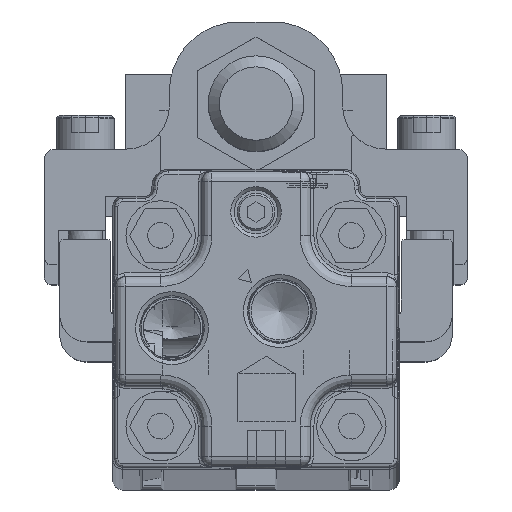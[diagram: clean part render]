
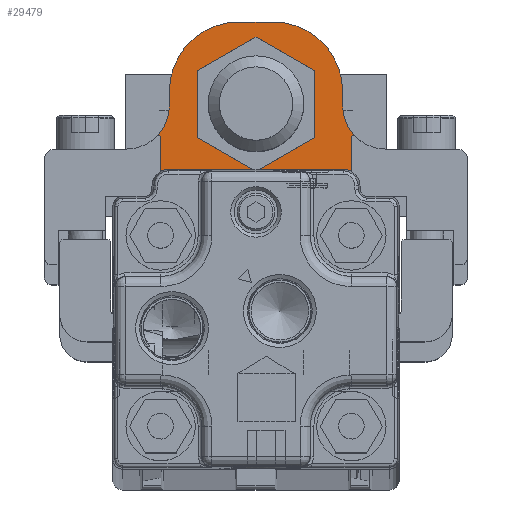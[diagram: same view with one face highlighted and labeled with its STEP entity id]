
A CAD part, top view. The second image highlights one B-rep face of the part: STEP entity #29479.
In plain terms, the highlighted planar face has unit normal (0, 0, 1).
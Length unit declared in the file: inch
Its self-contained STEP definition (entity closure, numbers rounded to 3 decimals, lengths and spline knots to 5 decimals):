
#5 = CARTESIAN_POINT ( 'NONE',  ( -0.1, 0.4748, -0.27559 ) ) ;
#718 = VERTEX_POINT ( 'NONE', #8689 ) ;
#861 = ORIENTED_EDGE ( 'NONE', *, *, #8585, .T. ) ;
#1132 = AXIS2_PLACEMENT_3D ( 'NONE', #18574, #13568, #13054 ) ;
#1176 = ORIENTED_EDGE ( 'NONE', *, *, #20737, .T. ) ;
#1322 = VERTEX_POINT ( 'NONE', #8042 ) ;
#1329 = DIRECTION ( 'NONE',  ( 0., 0., -1. ) ) ;
#1341 = CARTESIAN_POINT ( 'NONE',  ( -0.1, 0.0748, -0.27559 ) ) ;
#1572 = EDGE_CURVE ( 'NONE', #6424, #27566, #33865, .T. ) ;
#1623 = CARTESIAN_POINT ( 'NONE',  ( -0.5, -0.00906, -0.27559 ) ) ;
#1770 = VECTOR ( 'NONE', #25709, 39.37008 ) ;
#2056 = LINE ( 'NONE', #9706, #29802 ) ;
#2113 = CARTESIAN_POINT ( 'NONE',  ( -0.55118, -0.18779, -0.27559 ) ) ;
#2158 = VECTOR ( 'NONE', #21255, 39.37008 ) ;
#2505 = CIRCLE ( 'NONE', #26343, 0.01 ) ;
#2578 = FACE_OUTER_BOUND ( 'NONE', #4640, .T. ) ;
#2588 = CARTESIAN_POINT ( 'NONE',  ( 0.55118, -0.18779, -0.27559 ) ) ;
#3095 = ORIENTED_EDGE ( 'NONE', *, *, #19030, .T. ) ;
#3735 = ORIENTED_EDGE ( 'NONE', *, *, #18726, .T. ) ;
#3741 = AXIS2_PLACEMENT_3D ( 'NONE', #1341, #11921, #29355 ) ;
#3914 = CARTESIAN_POINT ( 'NONE',  ( -0.75, -0.00906, -0.27559 ) ) ;
#4118 = ORIENTED_EDGE ( 'NONE', *, *, #13944, .T. ) ;
#4193 = EDGE_CURVE ( 'NONE', #15937, #29982, #27621, .T. ) ;
#4421 = AXIS2_PLACEMENT_3D ( 'NONE', #20641, #31058, #33836 ) ;
#4640 = EDGE_LOOP ( 'NONE', ( #31101, #4118, #18362, #13677, #17644, #861, #12075, #16705, #15394, #27456, #1176, #32157, #17293, #3095, #5049, #3735 ) ) ;
#5049 = ORIENTED_EDGE ( 'NONE', *, *, #24814, .T. ) ;
#5413 = VECTOR ( 'NONE', #11190, 39.37008 ) ;
#5993 = CARTESIAN_POINT ( 'NONE',  ( -0.29035, -0.5315, -0.27559 ) ) ;
#6071 = CIRCLE ( 'NONE', #24904, 0.25 ) ;
#6320 = CARTESIAN_POINT ( 'NONE',  ( -0.5, 0.0748, -0.27559 ) ) ;
#6424 = VERTEX_POINT ( 'NONE', #23441 ) ;
#6636 = EDGE_LOOP ( 'NONE', ( #19509 ) ) ;
#7128 = AXIS2_PLACEMENT_3D ( 'NONE', #3914, #1329, #27862 ) ;
#7572 = VERTEX_POINT ( 'NONE', #23651 ) ;
#7668 = DIRECTION ( 'NONE',  ( -1., 0., 0. ) ) ;
#8042 = CARTESIAN_POINT ( 'NONE',  ( 0.56844, -0.18092, -0.27559 ) ) ;
#8160 = CARTESIAN_POINT ( 'NONE',  ( -0.5, 0.0748, -0.27559 ) ) ;
#8585 = EDGE_CURVE ( 'NONE', #14483, #33937, #31596, .T. ) ;
#8662 = DIRECTION ( 'NONE',  ( 0., -1., 0. ) ) ;
#8689 = CARTESIAN_POINT ( 'NONE',  ( -0.24606, 0., -0.27559 ) ) ;
#9424 = CIRCLE ( 'NONE', #1132, 0.01 ) ;
#9625 = EDGE_CURVE ( 'NONE', #718, #718, #25010, .T. ) ;
#9706 = CARTESIAN_POINT ( 'NONE',  ( -0.29035, -0.5315, -0.27559 ) ) ;
#10097 = CARTESIAN_POINT ( 'NONE',  ( -0.56118, -0.18779, -0.27559 ) ) ;
#10546 = VERTEX_POINT ( 'NONE', #2113 ) ;
#10731 = VERTEX_POINT ( 'NONE', #13683 ) ;
#10739 = CARTESIAN_POINT ( 'NONE',  ( -0.55118, -0.74835, -0.27559 ) ) ;
#10771 = EDGE_CURVE ( 'NONE', #10546, #7572, #13513, .T. ) ;
#11015 = CARTESIAN_POINT ( 'NONE',  ( 0.55118, -0.74835, -0.27559 ) ) ;
#11190 = DIRECTION ( 'NONE',  ( 0., 1., 0. ) ) ;
#11921 = DIRECTION ( 'NONE',  ( 0., 0., 1. ) ) ;
#12075 = ORIENTED_EDGE ( 'NONE', *, *, #31360, .T. ) ;
#12078 = CARTESIAN_POINT ( 'NONE',  ( -0.29035, -0.47244, -0.27559 ) ) ;
#12642 = CARTESIAN_POINT ( 'NONE',  ( -0.29035, -0.47244, -0.27559 ) ) ;
#12766 = AXIS2_PLACEMENT_3D ( 'NONE', #18479, #31844, #13287 ) ;
#12961 = DIRECTION ( 'NONE',  ( 0., 0., 1. ) ) ;
#13011 = PLANE ( 'NONE',  #4421 ) ;
#13054 = DIRECTION ( 'NONE',  ( -1., 0., 0. ) ) ;
#13287 = DIRECTION ( 'NONE',  ( -1., 0., 0. ) ) ;
#13336 = EDGE_CURVE ( 'NONE', #1322, #26265, #6071, .T. ) ;
#13513 = LINE ( 'NONE', #10739, #23879 ) ;
#13568 = DIRECTION ( 'NONE',  ( 0., 0., -1. ) ) ;
#13619 = CARTESIAN_POINT ( 'NONE',  ( 0.55118, -0.5315, -0.27559 ) ) ;
#13677 = ORIENTED_EDGE ( 'NONE', *, *, #13336, .T. ) ;
#13683 = CARTESIAN_POINT ( 'NONE',  ( -0.1, 0.4748, -0.27559 ) ) ;
#13944 = EDGE_CURVE ( 'NONE', #27566, #31505, #19150, .T. ) ;
#14483 = VERTEX_POINT ( 'NONE', #26956 ) ;
#14767 = DIRECTION ( 'NONE',  ( -1., 0., 0. ) ) ;
#15131 = CARTESIAN_POINT ( 'NONE',  ( 0.29035, -0.5315, -0.27559 ) ) ;
#15390 = VECTOR ( 'NONE', #30692, 39.37008 ) ;
#15394 = ORIENTED_EDGE ( 'NONE', *, *, #32047, .T. ) ;
#15429 = VERTEX_POINT ( 'NONE', #12078 ) ;
#15937 = VERTEX_POINT ( 'NONE', #1623 ) ;
#15948 = CARTESIAN_POINT ( 'NONE',  ( 0.29035, -0.47244, -0.27559 ) ) ;
#16061 = EDGE_CURVE ( 'NONE', #31505, #1322, #9424, .T. ) ;
#16526 = VERTEX_POINT ( 'NONE', #26880 ) ;
#16705 = ORIENTED_EDGE ( 'NONE', *, *, #24187, .T. ) ;
#16890 = DIRECTION ( 'NONE',  ( 0., -1., 0. ) ) ;
#17293 = ORIENTED_EDGE ( 'NONE', *, *, #24784, .T. ) ;
#17617 = VERTEX_POINT ( 'NONE', #15948 ) ;
#17644 = ORIENTED_EDGE ( 'NONE', *, *, #32585, .T. ) ;
#18059 = DIRECTION ( 'NONE',  ( 0., 0., -1. ) ) ;
#18362 = ORIENTED_EDGE ( 'NONE', *, *, #16061, .T. ) ;
#18479 = CARTESIAN_POINT ( 'NONE',  ( 0.1, 0.0748, -0.27559 ) ) ;
#18574 = CARTESIAN_POINT ( 'NONE',  ( 0.56118, -0.18779, -0.27559 ) ) ;
#18726 = EDGE_CURVE ( 'NONE', #17617, #6424, #21988, .T. ) ;
#19030 = EDGE_CURVE ( 'NONE', #16526, #15429, #29757, .T. ) ;
#19150 = LINE ( 'NONE', #11015, #5413 ) ;
#19379 = DIRECTION ( 'NONE',  ( 0., -1., 0. ) ) ;
#19502 = LINE ( 'NONE', #6320, #26108 ) ;
#19509 = ORIENTED_EDGE ( 'NONE', *, *, #9625, .F. ) ;
#20112 = LINE ( 'NONE', #12642, #15390 ) ;
#20158 = DIRECTION ( 'NONE',  ( 1., 0., 0. ) ) ;
#20641 = CARTESIAN_POINT ( 'NONE',  ( -0.55118, 0.72487, -0.27559 ) ) ;
#20654 = LINE ( 'NONE', #20979, #1770 ) ;
#20737 = EDGE_CURVE ( 'NONE', #29982, #10546, #2505, .T. ) ;
#20979 = CARTESIAN_POINT ( 'NONE',  ( 0.5, 0.0748, -0.27559 ) ) ;
#21255 = DIRECTION ( 'NONE',  ( 0., 1., 0. ) ) ;
#21686 = AXIS2_PLACEMENT_3D ( 'NONE', #25977, #12961, #23537 ) ;
#21988 = LINE ( 'NONE', #32569, #27873 ) ;
#22720 = DIRECTION ( 'NONE',  ( 1., 0., 0. ) ) ;
#23431 = FACE_BOUND ( 'NONE', #6636, .T. ) ;
#23441 = CARTESIAN_POINT ( 'NONE',  ( 0.29035, -0.5315, -0.27559 ) ) ;
#23456 = VERTEX_POINT ( 'NONE', #8160 ) ;
#23537 = DIRECTION ( 'NONE',  ( -1., 0., 0. ) ) ;
#23651 = CARTESIAN_POINT ( 'NONE',  ( -0.55118, -0.5315, -0.27559 ) ) ;
#23879 = VECTOR ( 'NONE', #8662, 39.37008 ) ;
#23953 = LINE ( 'NONE', #5, #32709 ) ;
#24187 = EDGE_CURVE ( 'NONE', #10731, #23456, #24251, .T. ) ;
#24251 = CIRCLE ( 'NONE', #3741, 0.4 ) ;
#24784 = EDGE_CURVE ( 'NONE', #7572, #16526, #2056, .T. ) ;
#24798 = CARTESIAN_POINT ( 'NONE',  ( -0.56844, -0.18092, -0.27559 ) ) ;
#24814 = EDGE_CURVE ( 'NONE', #15429, #17617, #20112, .T. ) ;
#24904 = AXIS2_PLACEMENT_3D ( 'NONE', #28796, #34015, #14767 ) ;
#25010 = CIRCLE ( 'NONE', #21686, 0.24606 ) ;
#25709 = DIRECTION ( 'NONE',  ( 0., 1., 0. ) ) ;
#25977 = CARTESIAN_POINT ( 'NONE',  ( 0., 0., -0.27559 ) ) ;
#26108 = VECTOR ( 'NONE', #16890, 39.37008 ) ;
#26265 = VERTEX_POINT ( 'NONE', #34222 ) ;
#26343 = AXIS2_PLACEMENT_3D ( 'NONE', #10097, #18059, #7668 ) ;
#26880 = CARTESIAN_POINT ( 'NONE',  ( -0.29035, -0.5315, -0.27559 ) ) ;
#26940 = VECTOR ( 'NONE', #20158, 39.37008 ) ;
#26956 = CARTESIAN_POINT ( 'NONE',  ( 0.5, 0.0748, -0.27559 ) ) ;
#27456 = ORIENTED_EDGE ( 'NONE', *, *, #4193, .T. ) ;
#27566 = VERTEX_POINT ( 'NONE', #13619 ) ;
#27621 = CIRCLE ( 'NONE', #7128, 0.25 ) ;
#27862 = DIRECTION ( 'NONE',  ( -1., 0., 0. ) ) ;
#27873 = VECTOR ( 'NONE', #19379, 39.37008 ) ;
#28796 = CARTESIAN_POINT ( 'NONE',  ( 0.75, -0.00906, -0.27559 ) ) ;
#29355 = DIRECTION ( 'NONE',  ( -1., 0., 0. ) ) ;
#29479 = ADVANCED_FACE ( 'NONE', ( #2578, #23431 ), #13011, .F. ) ;
#29757 = LINE ( 'NONE', #5993, #2158 ) ;
#29802 = VECTOR ( 'NONE', #22720, 39.37008 ) ;
#29982 = VERTEX_POINT ( 'NONE', #24798 ) ;
#30692 = DIRECTION ( 'NONE',  ( 1., 0., 0. ) ) ;
#31058 = DIRECTION ( 'NONE',  ( 0., 0., -1. ) ) ;
#31101 = ORIENTED_EDGE ( 'NONE', *, *, #1572, .T. ) ;
#31360 = EDGE_CURVE ( 'NONE', #33937, #10731, #23953, .T. ) ;
#31505 = VERTEX_POINT ( 'NONE', #2588 ) ;
#31596 = CIRCLE ( 'NONE', #12766, 0.4 ) ;
#31844 = DIRECTION ( 'NONE',  ( 0., 0., 1. ) ) ;
#31912 = DIRECTION ( 'NONE',  ( -1., 0., 0. ) ) ;
#32047 = EDGE_CURVE ( 'NONE', #23456, #15937, #19502, .T. ) ;
#32157 = ORIENTED_EDGE ( 'NONE', *, *, #10771, .T. ) ;
#32569 = CARTESIAN_POINT ( 'NONE',  ( 0.29035, -0.5315, -0.27559 ) ) ;
#32585 = EDGE_CURVE ( 'NONE', #26265, #14483, #20654, .T. ) ;
#32709 = VECTOR ( 'NONE', #31912, 39.37008 ) ;
#32866 = CARTESIAN_POINT ( 'NONE',  ( 0.1, 0.4748, -0.27559 ) ) ;
#33836 = DIRECTION ( 'NONE',  ( -1., 0., 0. ) ) ;
#33865 = LINE ( 'NONE', #15131, #26940 ) ;
#33937 = VERTEX_POINT ( 'NONE', #32866 ) ;
#34015 = DIRECTION ( 'NONE',  ( 0., 0., -1. ) ) ;
#34222 = CARTESIAN_POINT ( 'NONE',  ( 0.5, -0.00906, -0.27559 ) ) ;
